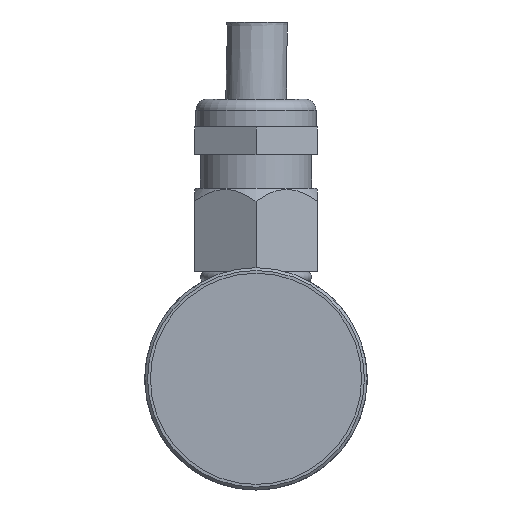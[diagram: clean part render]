
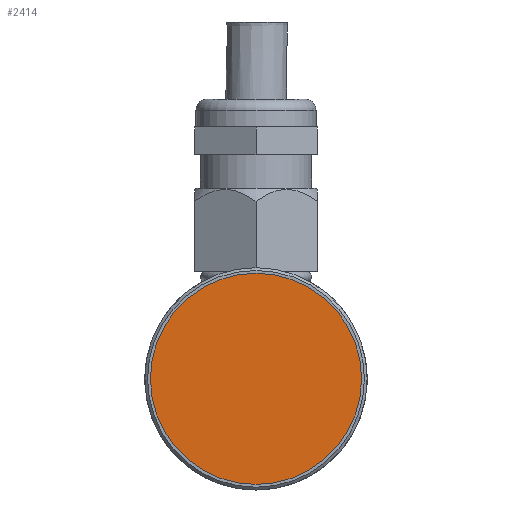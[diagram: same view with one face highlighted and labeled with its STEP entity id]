
A CAD part, left-side view. The second image highlights one B-rep face of the part: STEP entity #2414.
In plain terms, the highlighted planar face has unit normal (-1, 0, 0).
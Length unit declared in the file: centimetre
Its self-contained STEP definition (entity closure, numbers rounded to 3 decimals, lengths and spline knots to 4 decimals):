
#749=CIRCLE('',#2547,0.95);
#813=VERTEX_POINT('',#3145);
#1246=EDGE_CURVE('',#813,#813,#749,.T.);
#1538=ORIENTED_EDGE('',*,*,#1246,.T.);
#2098=EDGE_LOOP('',(#1538));
#2256=FACE_BOUND('',#2098,.T.);
#2414=ADVANCED_FACE('',(#2256),#7235,.T.);
#2547=AXIS2_PLACEMENT_3D('',#3144,#2733,#2734);
#2549=AXIS2_PLACEMENT_3D('',#3148,#2737,$);
#2733=DIRECTION('',(-1.,0.,0.));
#2734=DIRECTION('',(0.,0.,0.95));
#2737=DIRECTION('',(-1.,0.,0.));
#3144=CARTESIAN_POINT('',(0.1,0.,0.));
#3145=CARTESIAN_POINT('',(0.1,0.,0.95));
#3148=CARTESIAN_POINT('',(0.1,0.,0.));
#7235=PLANE('',#2549);
